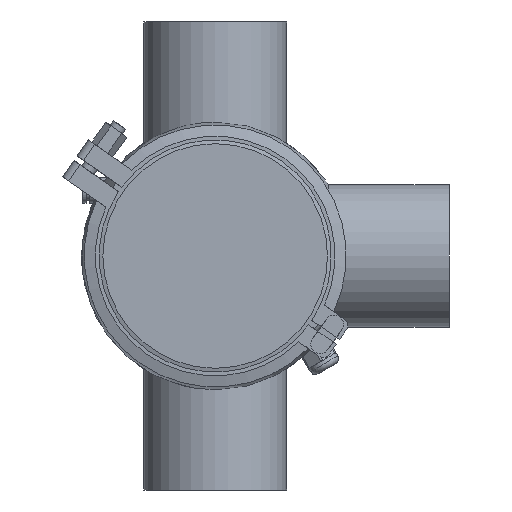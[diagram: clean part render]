
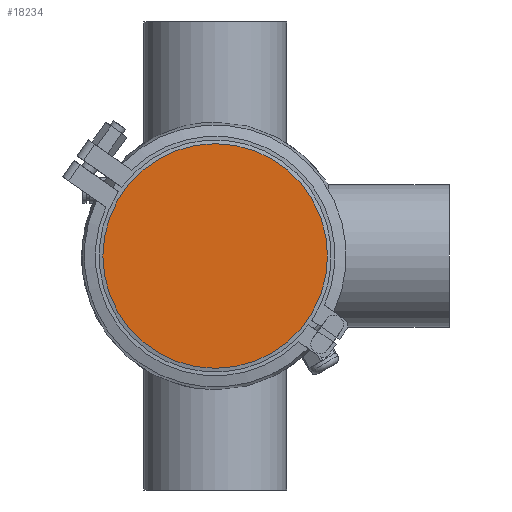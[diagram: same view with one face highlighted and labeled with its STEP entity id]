
A CAD part, front view. The second image highlights one B-rep face of the part: STEP entity #18234.
In plain terms, the highlighted planar face has unit normal (0, -1, 0).
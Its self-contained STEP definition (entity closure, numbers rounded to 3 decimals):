
#8688 = CARTESIAN_POINT ( 'NONE',  ( 0., 0., 0. ) ) ;
#16447 = CARTESIAN_POINT ( 'NONE',  ( -60., 0., 0. ) ) ;
#17615 = CARTESIAN_POINT ( 'NONE',  ( 0., 0., 60. ) ) ;
#17705 = ORIENTED_EDGE ( 'NONE', *, *, #19557, .F. ) ;
#18234 = ADVANCED_FACE ( 'NONE', ( #21696 ), #44952, .T. ) ;
#19557 = EDGE_CURVE ( 'NONE', #46427, #46427, #30430, .T. ) ;
#21089 = DIRECTION ( 'NONE',  ( 0., -1., 0. ) ) ;
#21696 = FACE_OUTER_BOUND ( 'NONE', #27212, .T. ) ;
#27212 = EDGE_LOOP ( 'NONE', ( #17705 ) ) ;
#27579 = DIRECTION ( 'NONE',  ( 0., 1., 0. ) ) ;
#29453 = AXIS2_PLACEMENT_3D ( 'NONE', #8688, #27579, #44197 ) ;
#29457 = AXIS2_PLACEMENT_3D ( 'NONE', #16447, #21089, #55158 ) ;
#30430 = CIRCLE ( 'NONE', #29453, 60. ) ;
#44197 = DIRECTION ( 'NONE',  ( 0., 0., 1. ) ) ;
#44952 = PLANE ( 'NONE',  #29457 ) ;
#46427 = VERTEX_POINT ( 'NONE', #17615 ) ;
#55158 = DIRECTION ( 'NONE',  ( 0., 0., -1. ) ) ;
